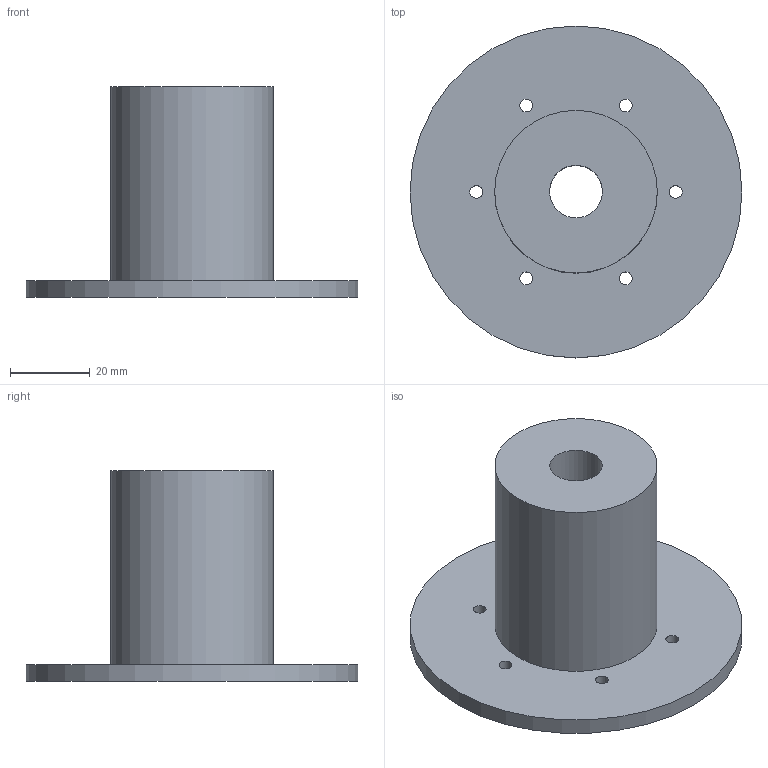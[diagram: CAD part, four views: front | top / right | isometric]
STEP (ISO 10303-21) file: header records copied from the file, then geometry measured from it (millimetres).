
FILE_DESCRIPTION(('Mechanical CAD reference from nasji.com'),'2;1');
FILE_NAME('NASJI.step','',(''),(''),'','NASJI distribution','');
FILE_SCHEMA(('AUTOMOTIVE_DESIGN { 1 0 10303 214 1 1 1 1 }'));
Length unit declared in the file: millimetre
Products named in the file (1): Open CASCADE STEP translator 7.8 244
Bounding box: 83.2 x 83.2 x 52.8 mm (x, y, z)
Volume: 78350.6 mm3; surface area: 20244.8 mm2
Topology: 1 solids, 1 shells, 12 faces, 27 edges, 18 vertices
Faces by surface type: cylinder 9, plane 3
Full cylindrical faces by diameter (mm): 3.2 x6, 13.2 x1, 40.74 x1, 83.2 x1
Entity records: 774 total; most frequent: CARTESIAN_POINT 184, DIRECTION 113, ORIENTED_EDGE 54, PCURVE 54, DEFINITIONAL_REPRESENTATION 54, LINE 45, VECTOR 45, AXIS2_PLACEMENT_3D 31
